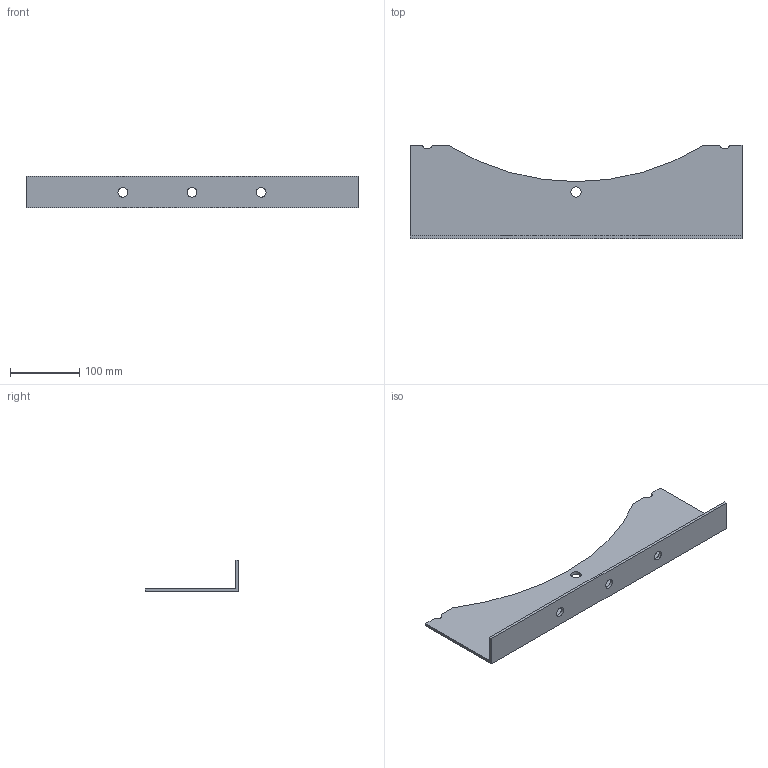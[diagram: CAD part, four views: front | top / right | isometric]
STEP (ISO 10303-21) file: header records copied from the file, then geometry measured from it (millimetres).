
FILE_DESCRIPTION(('STEP AP214'),'1');
FILE_NAME('accessory_5120704100.stp','2017-10-09T07:39:04',('TraceParts'),('TraceParts S.A.'),'Spatial InterOp 3D',' ',' ');
FILE_SCHEMA(('automotive_design'));
Length unit declared in the file: millimetre
Products named in the file (1): accessory_5120704100
Bounding box: 480 x 135 x 45 mm (x, y, z)
Volume: 282439.5 mm3; surface area: 147299.3 mm2
Topology: 1 solids, 1 shells, 24 faces, 66 edges, 44 vertices
Faces by surface type: cylinder 13, plane 11
Entity records: 1000 total; most frequent: DIRECTION 142, CARTESIAN_POINT 135, ORIENTED_EDGE 132, EDGE_CURVE 66, AXIS2_PLACEMENT_3D 51, VERTEX_POINT 44, LINE 40, VECTOR 40
